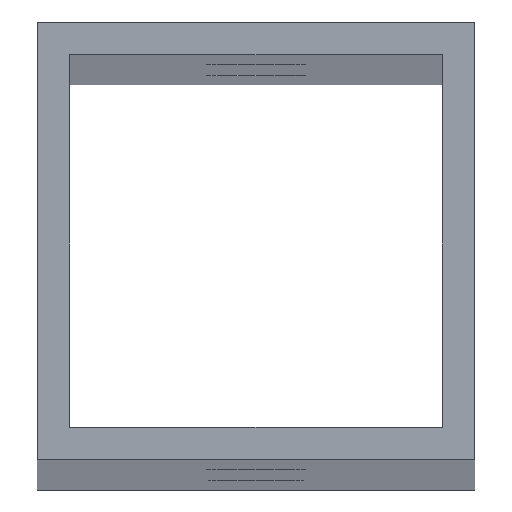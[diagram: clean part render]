
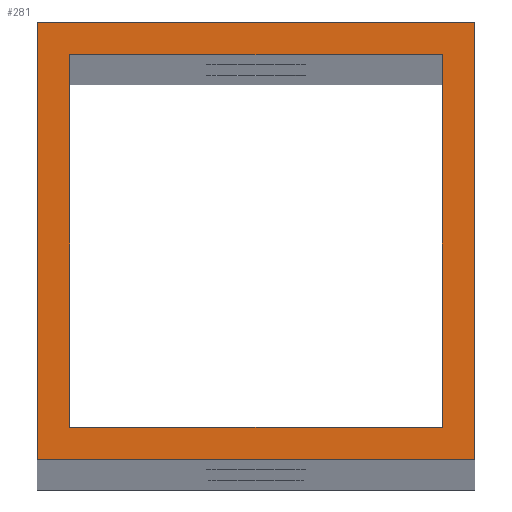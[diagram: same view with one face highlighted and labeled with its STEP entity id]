
A CAD part, top view. The second image highlights one B-rep face of the part: STEP entity #281.
In plain terms, the highlighted planar face has unit normal (0, 0, 1).
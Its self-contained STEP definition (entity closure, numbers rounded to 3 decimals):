
#37=CARTESIAN_POINT('',(2720.0,338.822,1700.0));
#38=VERTEX_POINT('',#37);
#45=CARTESIAN_POINT('',(2680.0,338.822,1700.0));
#46=VERTEX_POINT('',#45);
#47=CARTESIAN_POINT('',(2680.0,338.822,1700.0));
#48=DIRECTION('',(1.0,0.0,0.0));
#49=VECTOR('',#48,1.);
#50=LINE('',#47,#49);
#51=EDGE_CURVE('',#46,#38,#50,.T.);
#97=CARTESIAN_POINT('',(2720.0,378.822,1700.0));
#98=VERTEX_POINT('',#97);
#105=CARTESIAN_POINT('',(2720.0,338.822,1700.0));
#106=DIRECTION('',(0.,1.0,0.0));
#107=VECTOR('',#106,1.);
#108=LINE('',#105,#107);
#109=EDGE_CURVE('',#38,#98,#108,.T.);
#128=CARTESIAN_POINT('',(2680.0,378.822,1700.0));
#129=VERTEX_POINT('',#128);
#136=CARTESIAN_POINT('',(2720.0,378.822,1700.0));
#137=DIRECTION('',(-1.0,0.,0.0));
#138=VECTOR('',#137,1.);
#139=LINE('',#136,#138);
#140=EDGE_CURVE('',#98,#129,#139,.T.);
#180=CARTESIAN_POINT('',(2680.0,378.822,1700.0));
#181=DIRECTION('',(0.,-1.0,0.0));
#182=VECTOR('',#181,1.);
#183=LINE('',#180,#182);
#184=EDGE_CURVE('',#129,#46,#183,.T.);
#236=CARTESIAN_POINT('',(2680.0,338.822,1700.0));
#237=DIRECTION('',(0.0,0.0,1.0));
#238=DIRECTION('',(1.0,0.0,0.0));
#239=AXIS2_PLACEMENT_3D('',#236,#237,#238);
#240=PLANE('',#239);
#241=ORIENTED_EDGE('',*,*,#51,.T.);
#242=ORIENTED_EDGE('',*,*,#109,.T.);
#243=ORIENTED_EDGE('',*,*,#140,.T.);
#244=ORIENTED_EDGE('',*,*,#184,.T.);
#245=EDGE_LOOP('',(#241,#242,#243,#244));
#246=FACE_OUTER_BOUND('',#245,.T.);
#247=CARTESIAN_POINT('',(2683.0,375.822,1700.0));
#248=VERTEX_POINT('',#247);
#249=CARTESIAN_POINT('',(2683.0,341.822,1700.0));
#250=VERTEX_POINT('',#249);
#251=CARTESIAN_POINT('',(2683.0,375.822,1700.0));
#252=DIRECTION('',(0.0,-1.0,0.0));
#253=VECTOR('',#252,1.);
#254=LINE('',#251,#253);
#255=EDGE_CURVE('',#248,#250,#254,.T.);
#256=ORIENTED_EDGE('',*,*,#255,.F.);
#257=CARTESIAN_POINT('',(2717.0,375.822,1700.0));
#258=VERTEX_POINT('',#257);
#259=CARTESIAN_POINT('',(2717.0,375.822,1700.0));
#260=DIRECTION('',(-1.0,0.0,0.0));
#261=VECTOR('',#260,1.);
#262=LINE('',#259,#261);
#263=EDGE_CURVE('',#258,#248,#262,.T.);
#264=ORIENTED_EDGE('',*,*,#263,.F.);
#265=CARTESIAN_POINT('',(2717.0,341.822,1700.0));
#266=VERTEX_POINT('',#265);
#267=CARTESIAN_POINT('',(2717.0,341.822,1700.0));
#268=DIRECTION('',(0.0,1.0,0.0));
#269=VECTOR('',#268,1.);
#270=LINE('',#267,#269);
#271=EDGE_CURVE('',#266,#258,#270,.T.);
#272=ORIENTED_EDGE('',*,*,#271,.F.);
#273=CARTESIAN_POINT('',(2683.0,341.822,1700.0));
#274=DIRECTION('',(1.0,0.0,0.0));
#275=VECTOR('',#274,1.);
#276=LINE('',#273,#275);
#277=EDGE_CURVE('',#250,#266,#276,.T.);
#278=ORIENTED_EDGE('',*,*,#277,.F.);
#279=EDGE_LOOP('',(#256,#264,#272,#278));
#280=FACE_BOUND('',#279,.T.);
#281=ADVANCED_FACE('',(#246,#280),#240,.T.);
